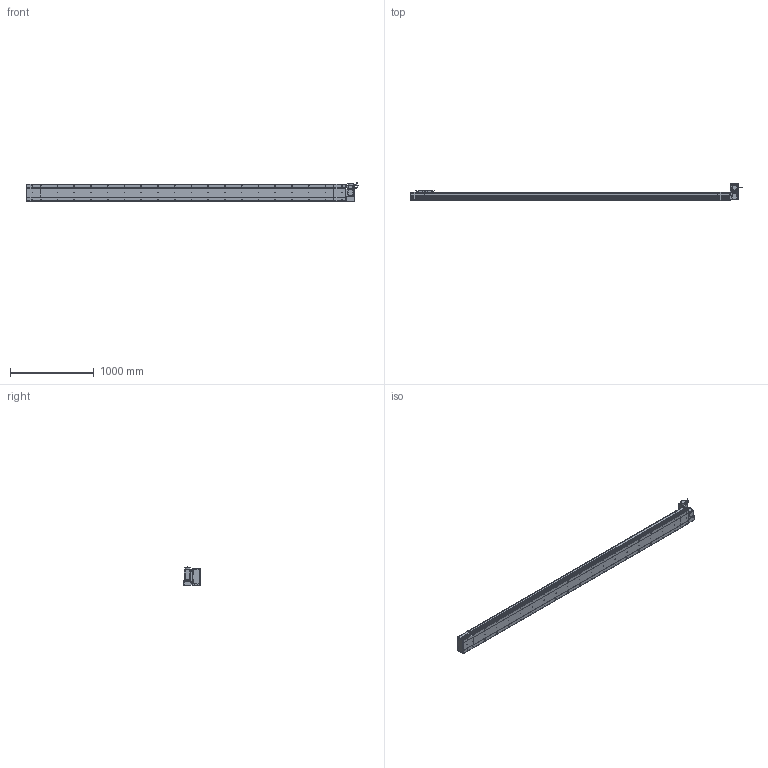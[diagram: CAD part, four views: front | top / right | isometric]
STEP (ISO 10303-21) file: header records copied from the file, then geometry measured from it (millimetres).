
FILE_DESCRIPTION (( 'STEP AP214' ), '1' );
FILE_NAME ('D20 CBH RT S3500.STEP', '2010-06-30T10:58:03', ( 'Conseil Régional Haute-Normandie' ), ( 'Conseil Régional Haute-Normandie' ), 'SwSTEP 2.0', 'SolidWorks 2010', '' );
FILE_SCHEMA (( 'AUTOMOTIVE_DESIGN' ));
Length unit declared in the file: millimetre
Products named in the file (31): Plaque De Serrage D20_Default; Plaque de Bout Tail D20_Default; Couvercle RT_Default; Tail D20+100_Default; Plaque De Serrage D20 RT_Default; Corp Tail D20 RT_Default; Couvercle S3500_Default; Corp Tail D20+100_Default; D20 CBH RT S3500; Plaque de Bout Head D20 RT_Default; Support moteur RT_Default; vis M5 L15_Default; Corp S3500_Default; Glissiere_Default; Chariot D20_Default; Corp D20 S3500_Default; Support Chariot D20_Default; Rondelle Cache D20 RT_Default; vis M5 L30_Default; Conecteur_Default; Conecteur2_Default; vis M5 L47_Default; Cache Support Moteur RT_Default; ecrou_Default; codeur 90BLDC125-640; corps 90BLDC125A-640; avant 90BLDC125A-640; Moteur motionking 90BLDC125A-640; Head RT_Default; Couvercle_Default
Assembly tree (68 placements, depth 4):
  D20 CBH RT S3500
    Chariot D20_Default
      Glissiere_Default
      vis M5 L15_Default  x8
      Support Chariot D20_Default
      Chariot D20_Default
    Head RT_Default
      vis M5 L15_Default  x14
      vis M5 L30_Default  x4
      ecrou_Default  x4
      Couvercle RT_Default
      Rondelle Cache D20 RT_Default  x3
      Plaque De Serrage D20 RT_Default
      Plaque de Bout Head D20 RT_Default
      Corp Tail D20 RT_Default
      Support moteur RT_Default
      Moteur motionking 90BLDC125A-640
        codeur 90BLDC125-640
        Conecteur_Default
        corps 90BLDC125A-640
        avant 90BLDC125A-640
        Conecteur2_Default
      vis M5 L47_Default  x4
      Cache Support Moteur RT_Default
    Tail D20+100_Default
      Plaque De Serrage D20_Default
      vis M5 L15_Default  x6
      Couvercle_Default
      Plaque de Bout Tail D20_Default
      Corp Tail D20+100_Default
    Corp D20 S3500_Default
      Corp S3500_Default
      Couvercle S3500_Default
Bounding box: 3964.45 x 206.5 x 229.7 mm (x, y, z)
Volume: 26400076.3 mm3; surface area: 5051010.7 mm2
Topology: 105 solids, 105 shells, 3892 faces, 9660 edges, 6274 vertices
Faces by surface type: plane 2155, bspline 806, cylinder 760, torus 95, cone 72, sphere 4
Entity records: 161510 total; most frequent: CARTESIAN_POINT 82658, ORIENTED_EDGE 15588, DIRECTION 12022, EDGE_CURVE 7794, VERTEX_POINT 5158, VECTOR 5002, LINE 5002, AXIS2_PLACEMENT_3D 3510
